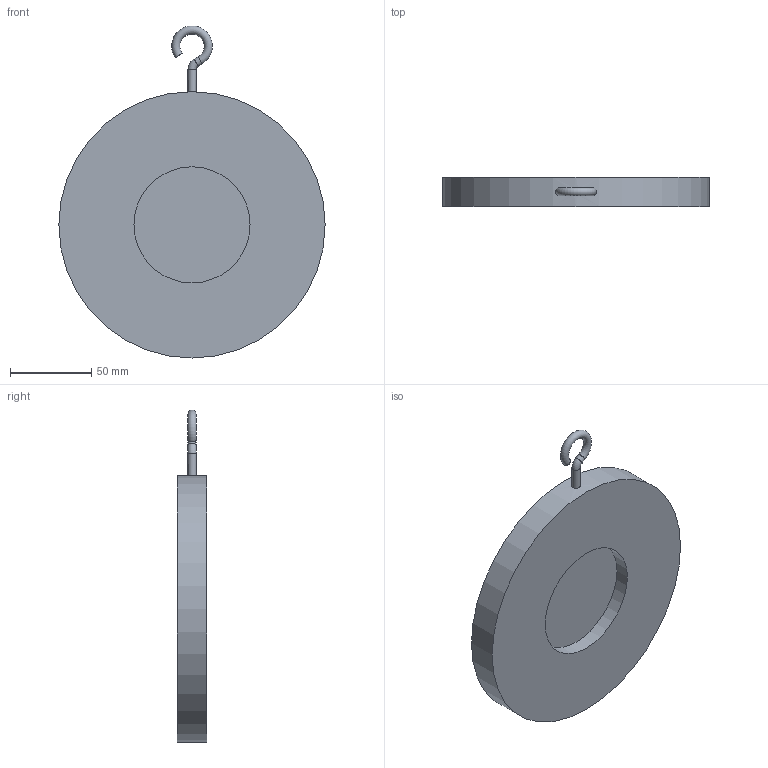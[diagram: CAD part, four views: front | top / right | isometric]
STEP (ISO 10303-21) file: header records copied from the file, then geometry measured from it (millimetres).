
FILE_DESCRIPTION(('STEP AP203'), '1');
FILE_NAME('孰囡囗 钺疣蝽 钿眍耱忸瘅囹 戾骠豚眦邂 008C.Y DN100', '', ('UNSPECIFIED'), ('UNSPECIFIED'), 'ASCON STEP Converter 1.6', 'ASCON Math Kernel', '');
FILE_SCHEMA(('CONFIG_CONTROL_DESIGN'));
Length unit declared in the file: millimetre
Bounding box: 164 x 18 x 204.46 mm (x, y, z)
Volume: 304672.8 mm3; surface area: 58431.3 mm2
Topology: 1 solids, 1 shells, 32 faces, 72 edges, 47 vertices
Faces by surface type: plane 17, cylinder 12, torus 2, cone 1
Full cylindrical faces by diameter (mm): 5 x2, 71.5 x1, 164 x1
Entity records: 1373 total; most frequent: CARTESIAN_POINT 374, DIRECTION 152, ORIENTED_EDGE 130, EDGE_CURVE 65, AXIS2_PLACEMENT_3D 59, VERTEX_POINT 47, EDGE_LOOP 44, LINE 34
